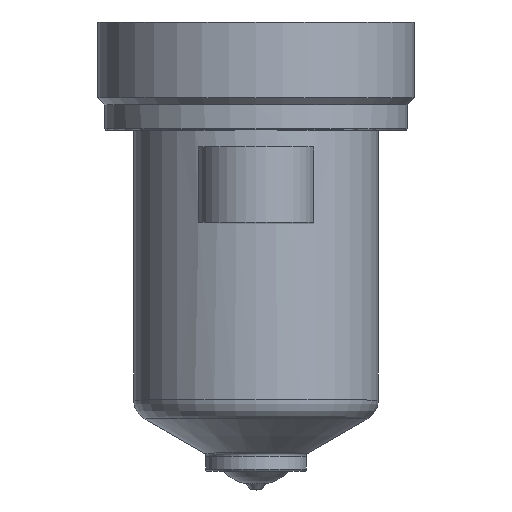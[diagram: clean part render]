
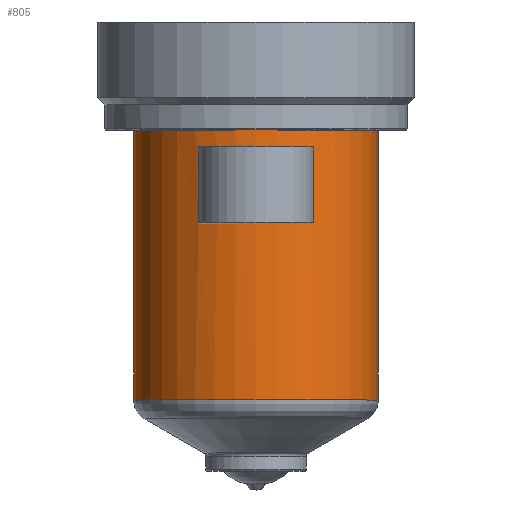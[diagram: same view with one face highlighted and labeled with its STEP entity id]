
A CAD part, top view. The second image highlights one B-rep face of the part: STEP entity #805.
In plain terms, the highlighted cylindrical face has radius 17 mm (diameter 34 mm), a partial arc.
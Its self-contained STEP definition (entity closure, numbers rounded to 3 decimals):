
#191=DIRECTION('',(0.,-1.,0.));
#192=VECTOR('',#191,37.506);
#193=CARTESIAN_POINT('',(17.,0.,0.));
#194=LINE('',#193,#192);
#195=CARTESIAN_POINT('',(0.,-37.506,0.));
#196=DIRECTION('',(0.,1.,0.));
#197=DIRECTION('',(-1.,0.,0.));
#198=AXIS2_PLACEMENT_3D('',#195,#196,#197);
#200=DIRECTION('',(0.,1.,0.));
#201=VECTOR('',#200,37.506);
#202=CARTESIAN_POINT('',(-17.,-37.506,0.));
#203=LINE('',#202,#201);
#204=CARTESIAN_POINT('',(0.,0.,0.));
#205=DIRECTION('',(0.,1.,0.));
#206=DIRECTION('',(-1.,0.,0.));
#207=AXIS2_PLACEMENT_3D('',#204,#205,#206);
#371=DIRECTION('',(0.,1.,0.));
#372=VECTOR('',#371,10.5);
#373=CARTESIAN_POINT('',(-8.,-13.,15.));
#374=LINE('',#373,#372);
#375=CARTESIAN_POINT('',(0.,-13.,0.));
#376=DIRECTION('',(0.,1.,0.));
#377=DIRECTION('',(-0.471,0.,0.882));
#378=AXIS2_PLACEMENT_3D('',#375,#376,#377);
#401=CARTESIAN_POINT('',(0.,-2.5,0.));
#402=DIRECTION('',(0.,-1.,0.));
#403=DIRECTION('',(0.471,0.,0.882));
#404=AXIS2_PLACEMENT_3D('',#401,#402,#403);
#419=DIRECTION('',(0.,1.,0.));
#420=VECTOR('',#419,10.5);
#421=CARTESIAN_POINT('',(8.,-13.,15.));
#422=LINE('',#421,#420);
#480=CARTESIAN_POINT('',(-17.,0.,0.));
#481=CARTESIAN_POINT('',(17.,0.,0.));
#482=VERTEX_POINT('',#480);
#483=VERTEX_POINT('',#481);
#492=CARTESIAN_POINT('',(-8.,-2.5,15.));
#493=VERTEX_POINT('',#492);
#494=CARTESIAN_POINT('',(8.,-2.5,15.));
#495=VERTEX_POINT('',#494);
#532=CARTESIAN_POINT('',(17.,-37.506,0.));
#533=VERTEX_POINT('',#532);
#542=CARTESIAN_POINT('',(-17.,-37.506,0.));
#543=VERTEX_POINT('',#542);
#564=CARTESIAN_POINT('',(-8.,-13.,15.));
#565=CARTESIAN_POINT('',(8.,-13.,15.));
#566=VERTEX_POINT('',#564);
#567=VERTEX_POINT('',#565);
#783=CARTESIAN_POINT('',(0.,16.4,0.));
#784=DIRECTION('',(0.,-1.,0.));
#785=DIRECTION('',(-1.,0.,0.));
#786=AXIS2_PLACEMENT_3D('',#783,#784,#785);
#787=CYLINDRICAL_SURFACE('',#786,17.);
#788=ORIENTED_EDGE('',*,*,#777,.T.);
#790=ORIENTED_EDGE('',*,*,#789,.F.);
#791=ORIENTED_EDGE('',*,*,#773,.T.);
#792=ORIENTED_EDGE('',*,*,#763,.T.);
#793=EDGE_LOOP('',(#788,#790,#791,#792));
#794=FACE_OUTER_BOUND('',#793,.F.);
#796=ORIENTED_EDGE('',*,*,#795,.F.);
#798=ORIENTED_EDGE('',*,*,#797,.T.);
#800=ORIENTED_EDGE('',*,*,#799,.T.);
#802=ORIENTED_EDGE('',*,*,#801,.T.);
#803=EDGE_LOOP('',(#796,#798,#800,#802));
#804=FACE_BOUND('',#803,.F.);
#805=ADVANCED_FACE('',(#794,#804),#787,.T.);
#199=CIRCLE('',#198,17.);
#208=CIRCLE('',#207,17.);
#379=CIRCLE('',#378,17.);
#405=CIRCLE('',#404,17.);
#763=EDGE_CURVE('',#482,#483,#208,.T.);
#773=EDGE_CURVE('',#543,#482,#203,.T.);
#777=EDGE_CURVE('',#483,#533,#194,.T.);
#789=EDGE_CURVE('',#543,#533,#199,.T.);
#795=EDGE_CURVE('',#566,#493,#374,.T.);
#797=EDGE_CURVE('',#566,#567,#379,.T.);
#799=EDGE_CURVE('',#567,#495,#422,.T.);
#801=EDGE_CURVE('',#495,#493,#405,.T.);
